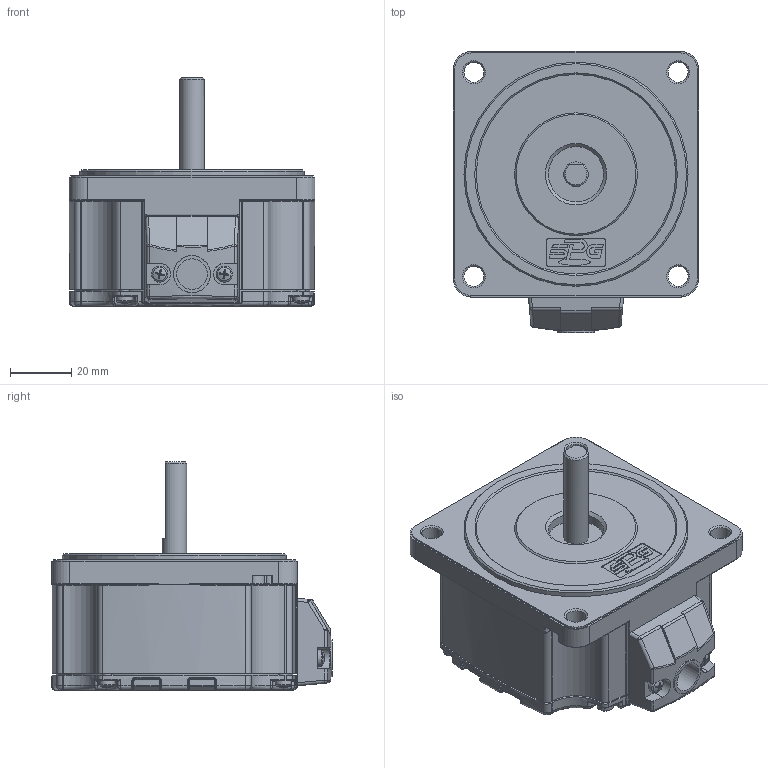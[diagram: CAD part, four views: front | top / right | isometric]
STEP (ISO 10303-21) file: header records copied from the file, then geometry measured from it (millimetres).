
FILE_DESCRIPTION((''),'2;1');
FILE_NAME('C:\Documents and Settings\Administrator\바탕 화면\BLDC 3D FILE\GEAR HEAD ASS''Y\60\MOTOR\80\80-D TYPE.stp','2014-06-19T12:51:46',('kdhkdh'),(''),'Autodesk Inventor 2011','Autodesk Inventor 2011','');
FILE_SCHEMA(('AUTOMOTIVE_DESIGN { 1 0 10303 214 1 1 1 1 }'));
Length unit declared in the file: millimetre
Products named in the file (1): 부품6
Bounding box: 80 x 91.5 x 74.5 mm (x, y, z)
Volume: 244522 mm3; surface area: 40041.7 mm2
Topology: 1 solids, 4 shells, 836 faces, 2086 edges, 1234 vertices
Faces by surface type: cylinder 244, plane 198, bspline 162, torus 135, cone 79, sphere 18
Full cylindrical faces by diameter (mm): 2.729 x6, 3 x6, 3.5 x6, 5.3 x6, 6.5 x4, 8 x1, 10 x1, 12 x1, 18 x1, 61 x1, 73 x1, 77 x2
Entity records: 28238 total; most frequent: CARTESIAN_POINT 9651, ORIENTED_EDGE 3882, DIRECTION 3756, EDGE_CURVE 1941, AXIS2_PLACEMENT_3D 1584, VERTEX_POINT 1207, EDGE_LOOP 953, CIRCLE 855
